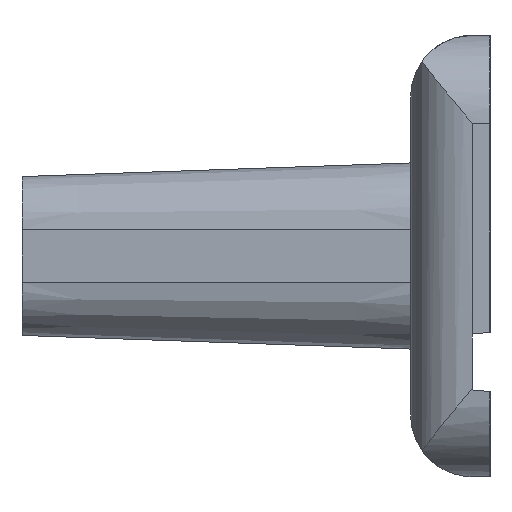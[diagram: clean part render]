
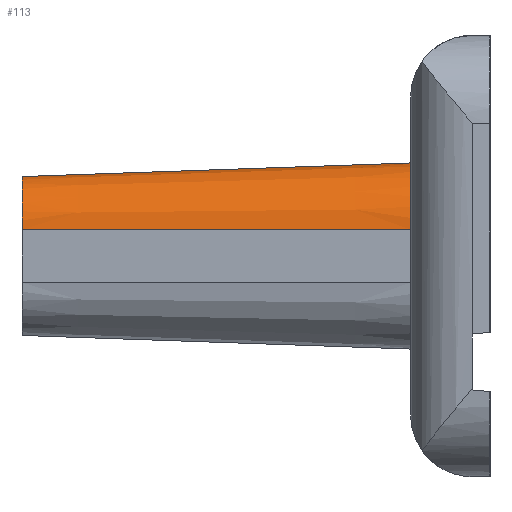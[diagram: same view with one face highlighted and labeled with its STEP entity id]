
A CAD part, left-side view. The second image highlights one B-rep face of the part: STEP entity #113.
In plain terms, the highlighted conical face has half-angle 2 degrees and reference radius 3 mm.
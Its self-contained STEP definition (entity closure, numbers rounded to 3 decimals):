
#113 = ADVANCED_FACE( '', ( #220 ), #221, .T. );
#220 = FACE_OUTER_BOUND( '', #362, .T. );
#221 = CONICAL_SURFACE( '', #363, 3., 0.035 );
#362 = EDGE_LOOP( '', ( #707, #708, #709, #710 ) );
#363 = AXIS2_PLACEMENT_3D( '', #711, #712, #713 );
#707 = ORIENTED_EDGE( '', *, *, #1073, .F. );
#708 = ORIENTED_EDGE( '', *, *, #1074, .F. );
#709 = ORIENTED_EDGE( '', *, *, #1075, .F. );
#710 = ORIENTED_EDGE( '', *, *, #1076, .T. );
#711 = CARTESIAN_POINT( '', ( -1., 0., 1.5 ) );
#712 = DIRECTION( '', ( 0., -1., 0. ) );
#713 = DIRECTION( '', ( -1., 0., 0. ) );
#1073 = EDGE_CURVE( '', #1311, #1312, #1313, .T. );
#1074 = EDGE_CURVE( '', #1314, #1311, #1315, .T. );
#1075 = EDGE_CURVE( '', #1316, #1314, #1317, .T. );
#1076 = EDGE_CURVE( '', #1316, #1312, #1318, .T. );
#1311 = VERTEX_POINT( '', #1695 );
#1312 = VERTEX_POINT( '', #1696 );
#1313 = CIRCLE( '', #1697, 3.768 );
#1314 = VERTEX_POINT( '', #1698 );
#1315 = LINE( '', #1699, #1700 );
#1316 = VERTEX_POINT( '', #1701 );
#1317 = CIRCLE( '', #1702, 3. );
#1318 = LINE( '', #1703, #1704 );
#1695 = CARTESIAN_POINT( '', ( -1., -22., 5.268 ) );
#1696 = CARTESIAN_POINT( '', ( -4.768, -22., 1.5 ) );
#1697 = AXIS2_PLACEMENT_3D( '', #2077, #2078, #2079 );
#1698 = CARTESIAN_POINT( '', ( -1., 0., 4.5 ) );
#1699 = CARTESIAN_POINT( '', ( -1., 0., 4.5 ) );
#1700 = VECTOR( '', #2080, 1. );
#1701 = CARTESIAN_POINT( '', ( -4., 0., 1.5 ) );
#1702 = AXIS2_PLACEMENT_3D( '', #2081, #2082, #2083 );
#1703 = CARTESIAN_POINT( '', ( -4., 0., 1.5 ) );
#1704 = VECTOR( '', #2084, 1. );
#2077 = CARTESIAN_POINT( '', ( -1., -22., 1.5 ) );
#2078 = DIRECTION( '', ( 0., -1., 0. ) );
#2079 = DIRECTION( '', ( -1., 0., 0. ) );
#2080 = DIRECTION( '', ( 0., -0.999, 0.035 ) );
#2081 = CARTESIAN_POINT( '', ( -1., 0., 1.5 ) );
#2082 = DIRECTION( '', ( 0., 1., 0. ) );
#2083 = DIRECTION( '', ( -1., 0., 0. ) );
#2084 = DIRECTION( '', ( -0.035, -0.999, 0. ) );
